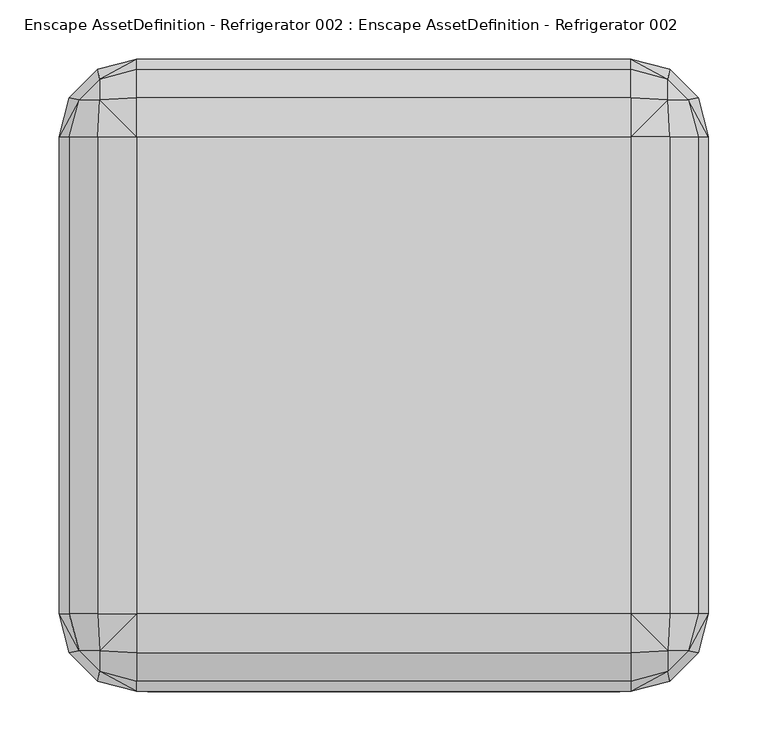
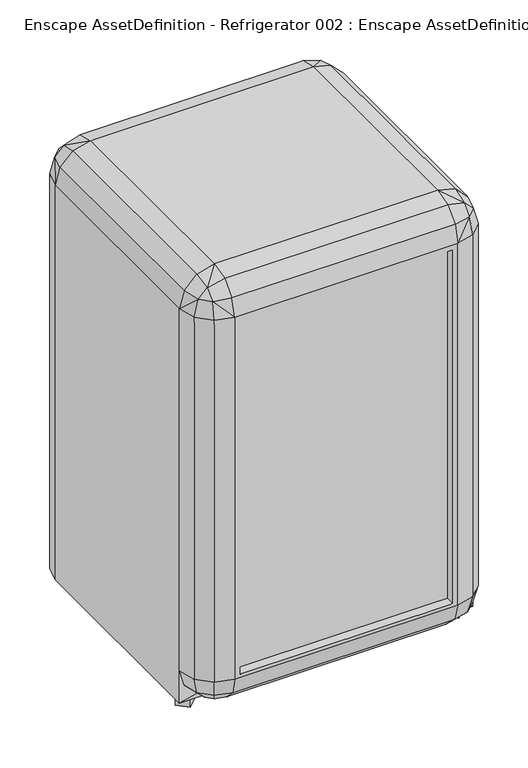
"""IFC4 building model written with IfcOpenShell, lengths in millimetres: geographic element geometry, Enscape AssetDefinition - Refrigerator 002 : Enscape AssetDefinition - Refrigerator 002."""

from ifc_helpers import new_model, si_unit, origin, place, context, project, spatial, triangles, source, transform, mapped, element, save


def enscape_assetdefinition_refrigerator_002_enscape_642a04e6(model_context):
    return source(origin(), model_context, "Body", "Tessellation", [
        triangles([(-200.0390071, -250.4990085, 793.3130596), (200.0390071, -250.4990085, 793.3130596), (-200.0390071, -267.8520009, 90.8140062), (200.0390071, -250.4990085, 90.8140062), (-200.0390071, -250.4990085, 90.8140062), (-200.0390071, -267.8520009, 793.3130596), (200.0390071, -267.8520009, 793.3130596), (200.0390071, -267.8520009, 90.8140062), (209.4859959, -267.8520009, 84.2020007), (209.4859959, -267.8520009, 802.7610294), (240.9419974, -250.5280038, 834.2160135), (-209.4859959, -267.8520009, 802.7610294), (209.4859959, -259.0639835, 835.6059723), (242.3709981, -259.0410198, 84.2020007), (242.3319925, -259.0639835, 802.7610294), (208.3430061, -259.165994, 51.7860015), (237.8769955, -251.2530141, 51.7860015), (-208.3430061, -259.165994, 51.7860015), (-205.2189962, -235.4360108, 28.0560001), (-206.5589943, -201.8530134, 19.37), (205.2189962, -235.4360108, 28.0560001), (225.5950054, -229.9760061, 28.0560001), (237.3879992, -218.1829941, 28.0560001), (266.2709928, -202.0740028, 51.7860015), (258.664989, -230.4650024, 51.7860015), (266.4529947, -234.959005, 84.2020007), (241.7039967, -202.0740028, 28.0560001), (275.263994, -202.0740028, 19.37), (275.263994, 202.0740028, 19.37), (275.263994, -202.0740028, 84.2020007), (266.4760129, -234.9199994, 802.7610294), (275.263994, -202.0740028, 802.7610294), (257.9399969, -233.5300043, 834.2160135), (240.9419974, -233.5300043, 851.2139585), (266.4760129, -202.0740028, 835.6059723), (266.4760129, 202.0740028, 835.6059723), (242.3319925, 202.0740028, 859.7499928), (240.9419974, 233.5300043, 851.2139585), (209.4859959, 202.0740028, 868.5380465), (209.4859959, -202.0740028, 868.5380465), (242.3319925, -202.0740028, 859.7499928), (209.4859959, -234.9199994, 859.7499928), (-209.4859959, -234.9199994, 859.7499928), (-209.4859959, -259.0639835, 835.6059723), (-240.9419974, -233.5300043, 851.2139585), (-242.3319925, -202.0740028, 859.7499928), (-209.4859959, -202.0740028, 868.5380465), (-257.9399969, -233.5300043, 834.2160135), (-266.4760129, -202.0740028, 835.6059723), (-275.263994, 202.0740028, 802.7610294), (-257.9399969, 233.5300043, 834.2160135), (-242.3319925, 202.0740028, 859.7499928), (-240.9419974, 233.5300043, 851.2139585), (-266.4760129, 202.0740028, 835.6059723), (-209.4859959, 259.0639835, 835.6059723), (-240.9419974, 250.5280038, 834.2160135), (-209.4859959, 234.9199994, 859.7499928), (-209.4859959, 267.8520009, 802.7610294), (240.9419974, 250.5280038, 834.2160135), (209.4859959, 259.0639835, 835.6059723), (209.4859959, 234.9199994, 859.7499928), (-209.4859959, 202.0740028, 868.5380465), (209.4859959, 267.8520009, 802.7610294), (209.4859959, 267.8520009, 19.37), (242.3319925, 259.0639835, 802.7610294), (242.3749949, 259.0390214, 19.37), (275.263994, 202.0740028, 802.7610294), (266.4760129, 234.9199994, 802.7610294), (257.9399969, 233.5300043, 834.2160135), (266.4509963, 234.9630019, 19.37), (206.5589943, -201.8530134, 19.37), (-209.4859959, 267.8520009, 19.37), (-266.4509963, 234.9630019, 19.37), (-242.3749949, 259.0390214, 19.37), (-242.3319925, 259.0639835, 802.7610294), (-275.263994, 202.0740028, 19.37), (-275.263994, -202.0740028, 19.37), (-266.4760129, 234.9199994, 802.7610294), (-275.263994, -202.0740028, 84.2020007), (-241.7039967, -202.0740028, 28.0560001), (-275.263994, -202.0740028, 802.7610294), (-266.4529947, -234.959005, 84.2020007), (-266.2709928, -202.0740028, 51.7860015), (-237.3879992, -218.1829941, 28.0560001), (-258.664989, -230.4650024, 51.7860015), (-237.8769955, -251.2530141, 51.7860015), (-242.3709981, -259.0410198, 84.2020007), (-266.4760129, -234.9199994, 802.7610294), (-209.4859959, -267.8520009, 84.2020007), (-225.5950054, -229.9760061, 28.0560001), (-242.3319925, -259.0639835, 802.7610294), (-240.9419974, -250.5280038, 834.2160135), (234.4689913, -179.4040021, 15.7210006), (269.7870209, -179.5299937, 15.7210006), (252.1910019, -161.8080013, 0.274), (252.0650103, -197.1259945, 15.7210006), (252.1910019, -161.8080013, 15.7210006), (269.7870209, -179.5299937, 0.274), (234.4689913, -179.4040021, 0.274), (252.0650103, -197.1259945, 0.274), (253.9809907, 236.3729994, 15.7210006), (236.3850081, 254.0940107, 15.7210006), (218.6630157, 236.4979918, 15.7210006), (236.3850081, 254.0940107, 0.274), (236.2589983, 218.7759994, 15.7210006), (218.6630157, 236.4979918, 0.274), (236.2589983, 218.7759994, 0.274), (253.9809907, 236.3729994, 0.274), (-269.7870209, -179.5299937, 15.7210006), (-252.0650103, -197.1259945, 15.7210006), (-234.4689913, -179.4040021, 15.7210006), (-252.1910019, -161.8080013, 15.7210006), (-252.1910019, -161.8080013, 0.274), (-269.7870209, -179.5299937, 0.274), (-252.0650103, -197.1259945, 0.274), (-234.4689913, -179.4040021, 0.274), (-218.6630157, 236.4979918, 15.7210006), (-236.3840089, 254.0940107, 15.7210006), (-236.2589983, 218.7769986, 15.7210006), (-253.9809907, 236.3729994, 15.7210006), (-253.9809907, 236.3729994, 0.274), (-236.2589983, 218.7769986, 0.274), (-218.6630157, 236.4979918, 0.274), (-236.3840089, 254.0940107, 0.274)], [[123, 121, 124], [123, 122, 121], [119, 122, 123], [120, 122, 119], [120, 121, 122], [118, 121, 120], [118, 124, 121], [117, 124, 118], [117, 123, 124], [119, 123, 117], [117, 120, 119], [117, 118, 120], [116, 114, 113], [116, 115, 114], [110, 115, 116], [109, 115, 110], [109, 114, 115], [112, 114, 109], [112, 113, 114], [111, 113, 112], [111, 116, 113], [110, 116, 111], [111, 109, 110], [111, 112, 109], [106, 108, 107], [106, 104, 108], [102, 108, 104], [101, 107, 108], [102, 101, 108], [101, 105, 107], [105, 106, 107], [103, 104, 106], [103, 102, 104], [105, 103, 106], [103, 101, 102], [103, 105, 101], [99, 98, 100], [99, 95, 98], [97, 98, 95], [94, 100, 98], [97, 94, 98], [94, 96, 100], [96, 99, 100], [93, 95, 99], [93, 97, 95], [96, 93, 99], [93, 94, 97], [93, 96, 94], [12, 92, 91], [88, 91, 92], [91, 89, 12], [20, 90, 84], [84, 90, 86], [86, 89, 87], [88, 87, 91], [91, 87, 89], [81, 82, 88], [88, 82, 87], [85, 87, 82], [85, 86, 87], [84, 86, 85], [80, 84, 85], [20, 84, 80], [83, 85, 82], [80, 85, 83], [81, 79, 82], [83, 82, 79], [79, 81, 50], [77, 20, 80], [83, 79, 77], [80, 83, 77], [77, 79, 76], [79, 50, 76], [76, 50, 78], [77, 76, 20], [76, 78, 73], [73, 78, 75], [76, 73, 74], [73, 75, 74], [74, 75, 58], [72, 20, 76], [74, 72, 76], [74, 58, 72], [64, 20, 72], [64, 71, 20], [64, 72, 58], [29, 71, 64], [70, 29, 64], [67, 29, 70], [64, 66, 70], [68, 70, 66], [67, 70, 68], [67, 68, 69], [65, 66, 64], [68, 66, 65], [65, 64, 63], [64, 58, 63], [63, 59, 65], [68, 59, 69], [68, 65, 59], [69, 59, 38], [61, 62, 39], [39, 38, 61], [60, 38, 59], [60, 61, 38], [63, 60, 59], [63, 55, 60], [63, 58, 55], [61, 57, 62], [60, 57, 61], [60, 55, 57], [58, 56, 55], [58, 75, 56], [57, 55, 56], [75, 51, 56], [75, 78, 51], [50, 51, 78], [51, 53, 56], [57, 56, 53], [62, 57, 53], [62, 53, 52], [54, 53, 51], [54, 52, 53], [50, 54, 51], [50, 49, 54], [50, 81, 49], [88, 92, 48], [81, 48, 49], [81, 88, 48], [46, 49, 48], [54, 46, 52], [54, 49, 46], [52, 47, 62], [52, 46, 47], [47, 39, 62], [48, 92, 45], [46, 48, 45], [47, 46, 45], [12, 13, 44], [44, 45, 92], [12, 44, 92], [47, 45, 43], [44, 43, 45], [43, 40, 47], [47, 40, 39], [43, 42, 40], [44, 42, 43], [44, 13, 42], [42, 13, 11], [42, 11, 34], [40, 42, 34], [40, 34, 41], [41, 39, 40], [41, 37, 39], [37, 69, 38], [39, 37, 38], [37, 36, 69], [67, 69, 36], [35, 41, 34], [35, 37, 41], [35, 36, 37], [11, 33, 34], [35, 34, 33], [15, 33, 11], [32, 35, 33], [32, 36, 35], [32, 67, 36], [29, 67, 32], [32, 33, 31], [15, 31, 33], [26, 31, 15], [30, 31, 26], [30, 32, 31], [29, 32, 30], [29, 28, 71], [29, 30, 28], [27, 71, 28], [28, 30, 24], [28, 24, 27], [17, 25, 26], [25, 30, 26], [25, 24, 30], [23, 24, 25], [23, 27, 24], [71, 27, 23], [22, 25, 17], [22, 23, 25], [71, 23, 22], [21, 20, 71], [21, 22, 17], [71, 22, 21], [21, 19, 20], [20, 19, 90], [86, 18, 89], [90, 18, 86], [90, 19, 18], [16, 19, 21], [16, 18, 19], [21, 17, 16], [16, 17, 14], [17, 26, 14], [26, 15, 14], [9, 18, 16], [9, 89, 18], [16, 14, 9], [14, 10, 9], [14, 15, 10], [12, 10, 13], [10, 11, 13], [10, 15, 11], [6, 10, 12], [6, 7, 10], [7, 9, 10], [8, 89, 9], [7, 8, 9], [3, 12, 89], [3, 6, 12], [8, 3, 89], [6, 3, 5], [6, 5, 1], [7, 6, 1], [7, 1, 2], [8, 7, 2], [3, 4, 5], [3, 8, 4], [8, 2, 4], [4, 1, 5], [4, 2, 1]]),
    ])


if __name__ == "__main__":
    model = new_model("IFC4")
    model_context = context("Model", 3, world=origin())
    ifc_project = project(units=[si_unit("LENGTHUNIT", "METRE", prefix="MILLI")], contexts=[model_context])
    site = spatial("IfcSite", under=ifc_project)
    building = spatial("IfcBuilding", under=site)
    placement = place(None, origin())
    enscape_assetdefinition_refrigerator_002_enscape_shape = enscape_assetdefinition_refrigerator_002_enscape_642a04e6(model_context)
    element("IfcGeographicElement", 1, ObjectType="Enscape AssetDefinition - Refrigerator 002 : Enscape AssetDefinition - Refrigerator 002", at=placement, inside=building, context=model_context, shape_type="MappedRepresentation", body=[
        mapped(enscape_assetdefinition_refrigerator_002_enscape_shape, transform((0.0, 0.0, 0.0), x_axis=(1.0, 0.0, 0.0), y_axis=(0.0, 1.0, 0.0), z_axis=(0.0, 0.0, 1.0))),
    ])
    save(model, "model.ifc")
